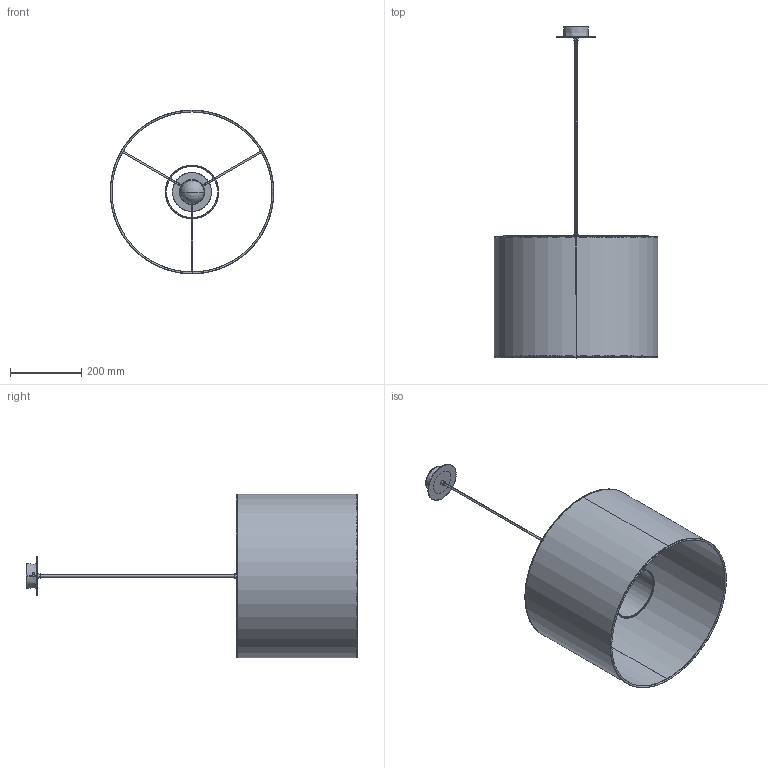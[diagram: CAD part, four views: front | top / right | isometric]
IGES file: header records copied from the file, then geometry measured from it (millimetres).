
Start section: SolidWorks IGES file using analytic representation for surfaces
Global section: file name: C:\SANTACOLE_PDM\Proyectos Catálogo\PROD-P13-045 -- MOARÉ\6_Técnico comercial\3D\Moare Liviana M.IGS; native system: SolidWorks 2019; preprocessor: SolidWorks 2019; author: louis.ferraz; date: 200407.125210; units: millimetre
Bounding box: 460 x 933.17 x 460 mm (x, y, z)
Surface area: 1344115.8 mm2 (no closed solid volume)
Topology: 0 solids, 0 shells, 647 faces, 8283 edges, 8282 vertices
Faces by surface type: bspline 354, revolution 293
